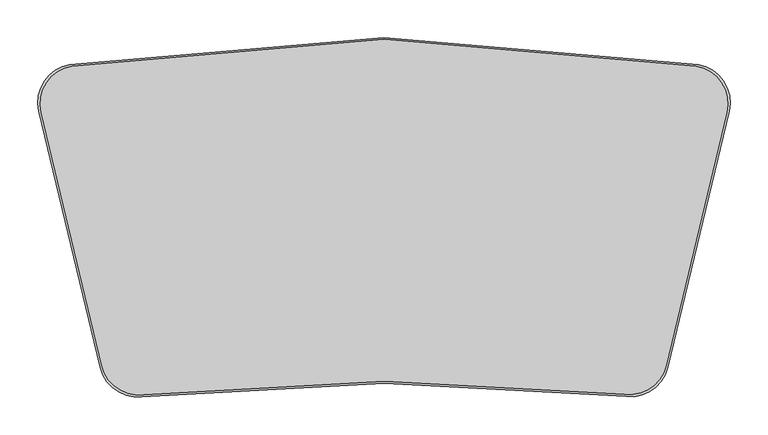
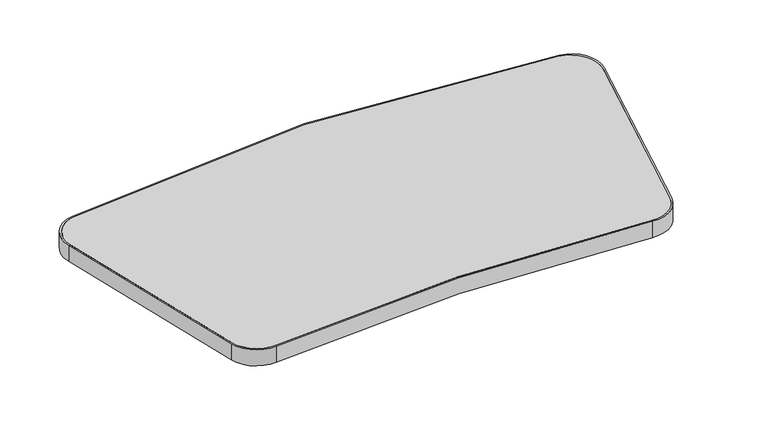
"""IFC4 building model written with IfcOpenShell, lengths in millimetres: furniture geometry, Steelcase - Groupwork - Table - Top - Personal : 18D x 36W - HPL."""

from ifc_helpers import new_model, si_unit, point, frame, frame_2d, origin, place, context, project, spatial, polyline, circle_curve, trimmed, segment, composite_curve, outline, extrude, source, transform, mapped, element, save


def furniture_00c87b9d(model_context):
    return source(origin(), model_context, "Body", "SweptSolid", [
        extrude(outline(composite_curve([segment(trimmed(circle_curve(frame_2d((131.364512, -87.4636332)), 50.8), [point((81.9536463, -99.2622072))], [point((122.6952418, -37.4088257))], False, "CARTESIAN"), True, "CONTINUOUS"), segment(trimmed(circle_curve(frame_2d((534.8618545, -2417.1847593)), 2415.2049211), [point((122.6952418, -37.4088257))], [point((947.0284672, -37.4088257))], False, "CARTESIAN"), True, "CONTINUOUS"), segment(trimmed(circle_curve(frame_2d((938.359197, -87.4636332)), 50.8), [point((947.0284672, -37.4088257))], [point((987.7700628, -99.2622072))], False, "CARTESIAN"), True, "CONTINUOUS"), segment(polyline([(987.7700628, -99.2622072), (908.0620804, -433.0686834)]), True, "CONTINUOUS"), segment(trimmed(circle_curve(frame_2d((858.6512147, -421.2701094)), 50.8), [point((908.0620804, -433.0686834))], [point((853.1788679, -471.7744995))], False, "CARTESIAN"), True, "CONTINUOUS"), segment(trimmed(circle_curve(frame_2d((536.3505404, -3395.7890152)), 2941.129218), [point((853.1788679, -471.7744995))], [point((216.6695383, -472.0850059))], True, "CARTESIAN"), True, "CONTINUOUS"), segment(trimmed(circle_curve(frame_2d((211.1479193, -421.5859789)), 50.8), [point((216.6695383, -472.0850059))], [point((161.7370536, -433.3845529))], False, "CARTESIAN"), True, "CONTINUOUS"), segment(polyline([(161.7370536, -433.3845529), (81.9536463, -99.2622072)]), True, "CONTINUOUS")], self_intersect=False)), frame((0.0, 0.0, 694.944), z_axis=(0.0, 0.0, 1.0), x_axis=(1.0, 0.0, 0.0)), (0.0, 0.0, 1.0), 28.956),
        extrude(outline(composite_curve([segment(trimmed(circle_curve(frame_2d((860.6376598, -424.0844201)), 50.8), [point((910.0485255, -435.8829941))], [point((855.1201625, -474.5838975))], False, "CARTESIAN"), True, "CONTINUOUS"), segment(trimmed(circle_curve(frame_2d((535.9536654, -3395.7890152)), 2938.589218), [point((855.1201625, -474.5838975))], [point((214.6954073, -474.8131981))], True, "CARTESIAN"), True, "CONTINUOUS"), segment(trimmed(circle_curve(frame_2d((209.1417493, -424.3176846)), 50.8), [point((214.6954073, -474.8131981))], [point((159.7308836, -436.1162586))], False, "CARTESIAN"), True, "CONTINUOUS"), segment(polyline([(159.7308836, -436.1162586), (78.8048401, -97.2087036)]), True, "CONTINUOUS"), segment(trimmed(circle_curve(frame_2d((128.2157058, -85.4101296)), 50.8), [point((78.8048401, -97.2087036))], [point((119.6306006, -35.3408179))], False, "CARTESIAN"), True, "CONTINUOUS"), segment(trimmed(circle_curve(frame_2d((534.8618545, -2457.016812)), 2457.016812), [point((119.6306006, -35.3408179))], [point((950.0931084, -35.3408179))], False, "CARTESIAN"), True, "CONTINUOUS"), segment(trimmed(circle_curve(frame_2d((941.5080032, -85.4101296)), 50.8), [point((950.0931084, -35.3408179))], [point((990.9188689, -97.2087036))], False, "CARTESIAN"), True, "CONTINUOUS"), segment(polyline([(990.9188689, -97.2087036), (910.0485255, -435.8829941)]), True, "CONTINUOUS")], self_intersect=False), holes=[composite_curve([segment(trimmed(circle_curve(frame_2d((938.359197, -87.4636332)), 50.8), [point((987.7700628, -99.2622072))], [point((947.0284672, -37.4088257))], True, "CARTESIAN"), True, "CONTINUOUS"), segment(trimmed(circle_curve(frame_2d((534.8618545, -2417.1847593)), 2415.2049211), [point((947.0284672, -37.4088257))], [point((122.6952418, -37.4088257))], True, "CARTESIAN"), True, "CONTINUOUS"), segment(trimmed(circle_curve(frame_2d((131.364512, -87.4636332)), 50.8), [point((122.6952418, -37.4088257))], [point((81.9536463, -99.2622072))], True, "CARTESIAN"), True, "CONTINUOUS"), segment(polyline([(81.9536463, -99.2622072), (161.7370536, -433.3845529)]), True, "CONTINUOUS"), segment(trimmed(circle_curve(frame_2d((211.1479193, -421.5859789)), 50.8), [point((161.7370536, -433.3845529))], [point((216.6695383, -472.0850059))], True, "CARTESIAN"), True, "CONTINUOUS"), segment(trimmed(circle_curve(frame_2d((536.3505404, -3395.7890152)), 2941.129218), [point((216.6695383, -472.0850059))], [point((853.1788679, -471.7744995))], False, "CARTESIAN"), True, "CONTINUOUS"), segment(trimmed(circle_curve(frame_2d((858.6512147, -421.2701094)), 50.8), [point((853.1788679, -471.7744995))], [point((908.0620804, -433.0686834))], True, "CARTESIAN"), True, "CONTINUOUS"), segment(polyline([(908.0620804, -433.0686834), (987.7700628, -99.2622072)]), True, "CONTINUOUS")], self_intersect=False)]), frame((0.0, 0.0, 694.944), z_axis=(0.0, 0.0, 1.0), x_axis=(1.0, 0.0, 0.0)), (0.0, 0.0, 1.0), 28.956),
    ])


if __name__ == "__main__":
    model = new_model("IFC4")
    model_context = context("Model", 3, world=origin())
    ifc_project = project(units=[si_unit("LENGTHUNIT", "METRE", prefix="MILLI")], contexts=[model_context])
    site = spatial("IfcSite", under=ifc_project)
    building = spatial("IfcBuilding", under=site)
    placement = place(None, origin())
    furniture_shape = furniture_00c87b9d(model_context)
    element("IfcFurniture", 1, ObjectType="Steelcase - Groupwork - Table - Top - Personal : 18D x 36W - HPL", at=placement, inside=building, context=model_context, shape_type="MappedRepresentation", body=[
        mapped(furniture_shape, transform((0.0, 0.0, 0.0), x_axis=(1.0, 0.0, 0.0), y_axis=(0.0, 1.0, 0.0), z_axis=(0.0, 0.0, 1.0))),
    ])
    save(model, "model.ifc")
